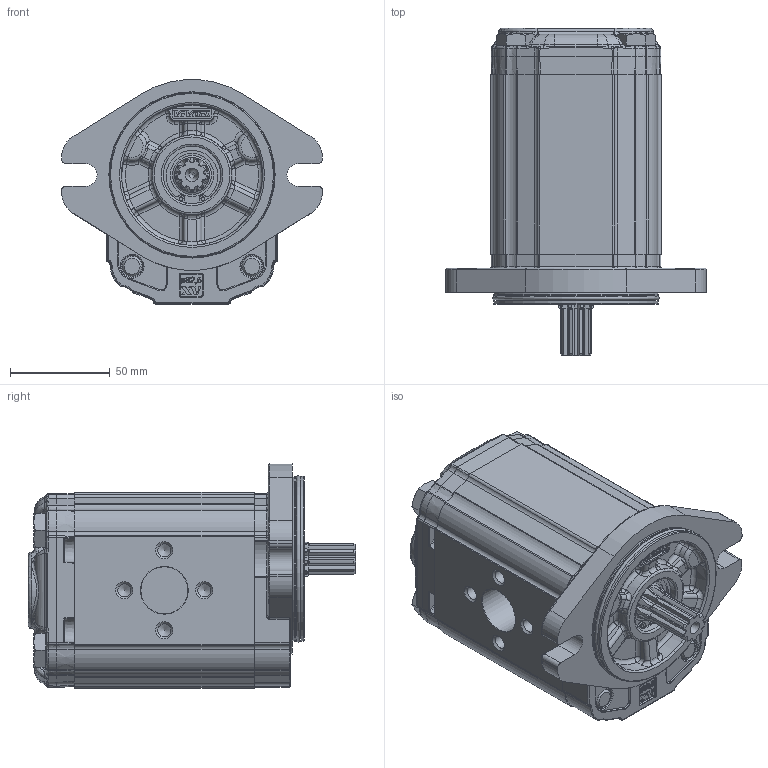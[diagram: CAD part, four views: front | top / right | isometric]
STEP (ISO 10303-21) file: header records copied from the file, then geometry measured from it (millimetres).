
FILE_DESCRIPTION(/* description */ ('Unknown'),/* implementation_level */ '2;1');
FILE_NAME(/* name */ 'X2P5952IQPA',/* time_stamp */ '2020-09-21T11:34:38+02:00',/* author */ ('Unknown'),/* organization */ ('Unknown'),/* preprocessor_version */ 'ST-DEVELOPER v16.7',/* originating_system */ 'DEX',/* authorisation */ $);
FILE_SCHEMA (('AP242_MANAGED_MODEL_BASED_3D_ENGINEERING_MIM_LF { 1 0 10303 442 1 1 4 }','AUTOMOTIVE_DESIGN {1 0 10303 214 3 1 1}'));
Products named in the file (5): X2P5952IQPA; X2P52; 2I; X2QPH90; XP219-A
Assembly tree (4 placements, depth 2):
  X2P5952IQPA
    X2P52
    2I
    X2QPH90
    XP219-A
Bounding box: 130.38 x 163.7 x 112.3 mm (x, y, z)
Volume: 961152.5 mm3; surface area: 131778.4 mm2
Topology: 4 solids, 5 shells, 2223 faces, 5483 edges, 3330 vertices
Faces by surface type: cylinder 661, plane 591, bspline 570, torus 247, cone 116, sphere 38
Full cylindrical faces by diameter (mm): 2 x2, 6.647 x8, 10 x4, 10.5 x4, 11 x2, 11.5 x4, 16 x4, 17.42 x1, 17.48 x2, 18.724 x1, 20 x1, 20.595 x1, 21.741 x1, 23.5 x1, 25.834 x1, 28.56 x1, 28.57 x1, 28.8 x1, 30.4 x1, 79.6 x2, 82.5 x2
Entity records: 101724 total; most frequent: CARTESIAN_POINT 39174, ORIENTED_EDGE 10532, DIRECTION 8859, EDGE_CURVE 5266, AXIS2_PLACEMENT_3D 3383, VERTEX_POINT 3266, FACE_BOUND 2446, EDGE_LOOP 2436
